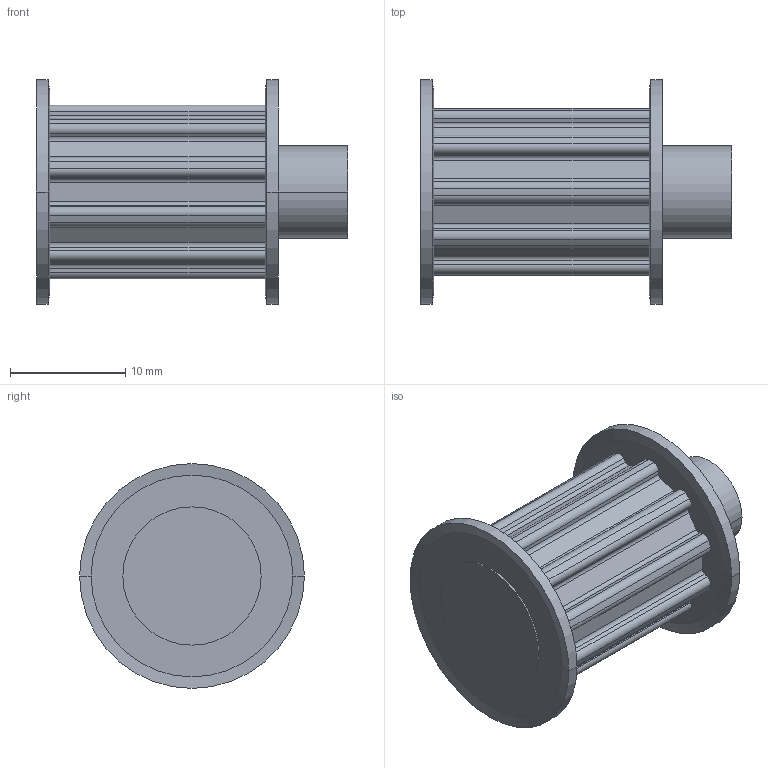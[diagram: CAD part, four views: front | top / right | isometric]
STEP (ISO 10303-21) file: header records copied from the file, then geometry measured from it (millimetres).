
FILE_DESCRIPTION( ( '' ), '1' );
FILE_NAME( 'C:/Users/Stangenbergd/Documents/CAD_Step/1/16231000.stp', '2021-10-19T08:43:21', ( '' ), ( '' ), ' ', ' ', ' ' );
FILE_SCHEMA( ( 'CONFIG_CONTROL_DESIGN' ) );
Length unit declared in the file: millimetre
Products named in the file (1): 1
Bounding box: 27 x 19.5 x 19.5 mm (x, y, z)
Volume: 3673.3 mm3; surface area: 2259.6 mm2
Topology: 1 solids, 1 shells, 105 faces, 286 edges, 188 vertices
Faces by surface type: cylinder 60, plane 37, cone 8
Entity records: 3408 total; most frequent: DIRECTION 626, CARTESIAN_POINT 580, ORIENTED_EDGE 572, EDGE_CURVE 286, AXIS2_PLACEMENT_3D 234, VERTEX_POINT 188, LINE 158, VECTOR 158
